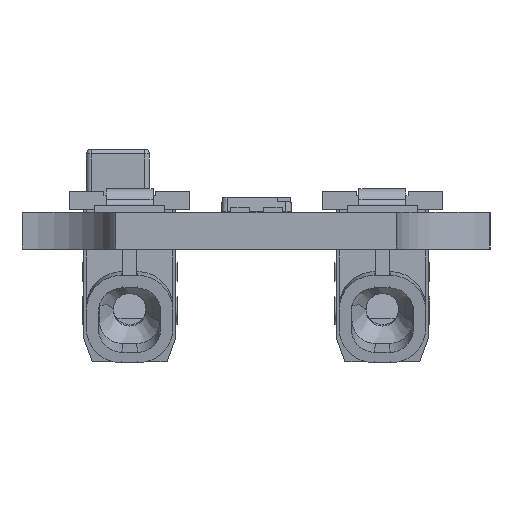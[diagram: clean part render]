
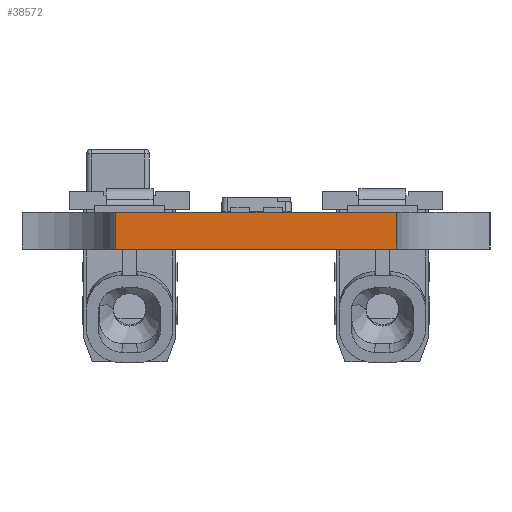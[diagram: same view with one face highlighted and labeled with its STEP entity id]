
A CAD part, left-side view. The second image highlights one B-rep face of the part: STEP entity #38572.
In plain terms, the highlighted planar face has unit normal (-1, 0, 0).
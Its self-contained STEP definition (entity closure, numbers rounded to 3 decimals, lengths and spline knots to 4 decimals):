
#2618=FACE_OUTER_BOUND($,#4574,.T.);
#4574=EDGE_LOOP($,(#32813,#32814,#32815,#32816));
#9621=LINE($,#66044,#14099);
#9664=LINE($,#66155,#14142);
#9665=LINE($,#66157,#14143);
#9666=LINE($,#66158,#14144);
#14099=VECTOR($,#50174,0.1575);
#14142=VECTOR($,#50279,0.1575);
#14143=VECTOR($,#50282,1.2);
#14144=VECTOR($,#50283,1.2);
#17605=VERTEX_POINT($,#66040);
#17607=VERTEX_POINT($,#66043);
#17643=VERTEX_POINT($,#66151);
#17644=VERTEX_POINT($,#66153);
#22854=EDGE_CURVE($,#17605,#17607,#9621,.T.);
#22910=EDGE_CURVE($,#17643,#17644,#9664,.T.);
#22911=EDGE_CURVE($,#17643,#17605,#9665,.T.);
#22912=EDGE_CURVE($,#17607,#17644,#9666,.T.);
#32813=ORIENTED_EDGE($,*,*,#22911,.F.);
#32814=ORIENTED_EDGE($,*,*,#22910,.T.);
#32815=ORIENTED_EDGE($,*,*,#22912,.F.);
#32816=ORIENTED_EDGE($,*,*,#22854,.F.);
#34907=PLANE($,#40985);
#38572=ADVANCED_FACE($,(#2618),#34907,.T.);
#40985=AXIS2_PLACEMENT_3D($,#66156,#50280,#50281);
#50174=DIRECTION($,(0.,0.,-1.));
#50279=DIRECTION($,(0.,0.,-1.));
#50280=DIRECTION('center_axis',(-1.,0.,0.));
#50281=DIRECTION('ref_axis',(0.,1.,0.));
#50282=DIRECTION($,(0.,-1.,0.));
#50283=DIRECTION($,(0.,1.,0.));
#66040=CARTESIAN_POINT('',(0.,0.4,0.));
#66043=CARTESIAN_POINT('',(0.,0.4,-0.1575));
#66044=CARTESIAN_POINT($,(0.,0.4,0.));
#66151=CARTESIAN_POINT('',(0.,1.6,0.));
#66153=CARTESIAN_POINT('',(0.,1.6,-0.1575));
#66155=CARTESIAN_POINT($,(0.,1.6,0.));
#66156=CARTESIAN_POINT('Origin',(0.,0.4,0.));
#66157=CARTESIAN_POINT($,(0.,1.6,0.));
#66158=CARTESIAN_POINT($,(0.,1.6,-0.1575));
